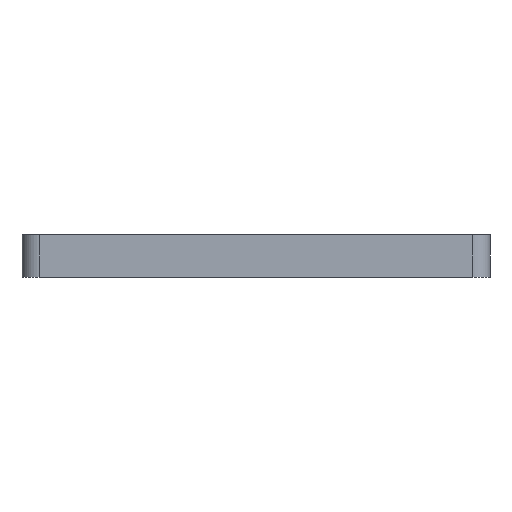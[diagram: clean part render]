
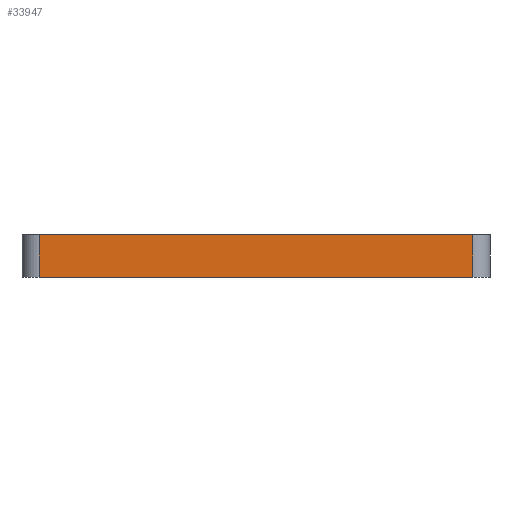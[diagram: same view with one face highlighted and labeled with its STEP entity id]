
A CAD part, left-side view. The second image highlights one B-rep face of the part: STEP entity #33947.
In plain terms, the highlighted free-form (B-spline) face has degree [1, 1] with [2, 2] control points.
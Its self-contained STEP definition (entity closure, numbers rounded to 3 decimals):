
#4346 = B_SPLINE_SURFACE_WITH_KNOTS('',1,1,(
    (#4347,#4348)
    ,(#4349,#4350
    )),.UNSPECIFIED.,.F.,.F.,.F.,(2,2),(2,2),(0.,108.),(0.,108.),
  .PIECEWISE_BEZIER_KNOTS.);
#4347 = CARTESIAN_POINT('',(-54.,54.,9.8));
#4348 = CARTESIAN_POINT('',(-54.,-54.,9.8));
#4349 = CARTESIAN_POINT('',(54.,54.,9.8));
#4350 = CARTESIAN_POINT('',(54.,-54.,9.8));
#24411 = B_SPLINE_SURFACE_WITH_KNOTS('',1,1,(
    (#24412,#24413)
    ,(#24414,#24415
    )),.UNSPECIFIED.,.F.,.F.,.F.,(2,2),(2,2),(0.,108.),(0.,108.),
  .PIECEWISE_BEZIER_KNOTS.);
#24412 = CARTESIAN_POINT('',(-54.,54.,0.));
#24413 = CARTESIAN_POINT('',(-54.,-54.,0.));
#24414 = CARTESIAN_POINT('',(54.,54.,0.));
#24415 = CARTESIAN_POINT('',(54.,-54.,0.));
#24535 = EDGE_CURVE('',#24536,#24538,#24540,.T.);
#24536 = VERTEX_POINT('',#24537);
#24537 = CARTESIAN_POINT('',(-54.,50.,9.8));
#24538 = VERTEX_POINT('',#24539);
#24539 = CARTESIAN_POINT('',(-54.,-50.,9.8));
#24540 = SURFACE_CURVE('',#24541,(#24544,#24550),.PCURVE_S1.);
#24541 = B_SPLINE_CURVE_WITH_KNOTS('',1,(#24542,#24543),.UNSPECIFIED.,
  .F.,.F.,(2,2),(4.,104.),.PIECEWISE_BEZIER_KNOTS.);
#24542 = CARTESIAN_POINT('',(-54.,50.,9.8));
#24543 = CARTESIAN_POINT('',(-54.,-50.,9.8));
#24544 = PCURVE('',#4346,#24545);
#24545 = DEFINITIONAL_REPRESENTATION('',(#24546),#24549);
#24546 = B_SPLINE_CURVE_WITH_KNOTS('',1,(#24547,#24548),.UNSPECIFIED.,
  .F.,.F.,(2,2),(4.,104.),.PIECEWISE_BEZIER_KNOTS.);
#24547 = CARTESIAN_POINT('',(0.,4.));
#24548 = CARTESIAN_POINT('',(0.,104.));
#24549 = ( GEOMETRIC_REPRESENTATION_CONTEXT(2) 
PARAMETRIC_REPRESENTATION_CONTEXT() REPRESENTATION_CONTEXT('2D SPACE',''
  ) );
#24550 = PCURVE('',#24551,#24556);
#24551 = B_SPLINE_SURFACE_WITH_KNOTS('',1,1,(
    (#24552,#24553)
    ,(#24554,#24555
    )),.UNSPECIFIED.,.F.,.F.,.F.,(2,2),(2,2),(0.,9.8),(-104.,-4.),
  .PIECEWISE_BEZIER_KNOTS.);
#24552 = CARTESIAN_POINT('',(-54.,-50.,9.8));
#24553 = CARTESIAN_POINT('',(-54.,50.,9.8));
#24554 = CARTESIAN_POINT('',(-54.,-50.,0.));
#24555 = CARTESIAN_POINT('',(-54.,50.,0.));
#24556 = DEFINITIONAL_REPRESENTATION('',(#24557),#24560);
#24557 = B_SPLINE_CURVE_WITH_KNOTS('',1,(#24558,#24559),.UNSPECIFIED.,
  .F.,.F.,(2,2),(4.,104.),.PIECEWISE_BEZIER_KNOTS.);
#24558 = CARTESIAN_POINT('',(0.,-4.));
#24559 = CARTESIAN_POINT('',(0.,-104.));
#24560 = ( GEOMETRIC_REPRESENTATION_CONTEXT(2) 
PARAMETRIC_REPRESENTATION_CONTEXT() REPRESENTATION_CONTEXT('2D SPACE',''
  ) );
#24578 = ( BOUNDED_SURFACE() B_SPLINE_SURFACE(2,1,(
    (#24579,#24580)
    ,(#24581,#24582)
    ,(#24583,#24584
)),.UNSPECIFIED.,.F.,.F.,.F.) B_SPLINE_SURFACE_WITH_KNOTS((3,3),(2,2),(
    0.,1.571),(0.,9.8),.PIECEWISE_BEZIER_KNOTS.) 
GEOMETRIC_REPRESENTATION_ITEM() RATIONAL_B_SPLINE_SURFACE((
    (1.,1.)
    ,(0.707,0.707)
,(1.,1.))) REPRESENTATION_ITEM('') SURFACE() );
#24579 = CARTESIAN_POINT('',(-54.,50.,9.8));
#24580 = CARTESIAN_POINT('',(-54.,50.,0.));
#24581 = CARTESIAN_POINT('',(-54.,54.,9.8));
#24582 = CARTESIAN_POINT('',(-54.,54.,0.));
#24583 = CARTESIAN_POINT('',(-50.,54.,9.8));
#24584 = CARTESIAN_POINT('',(-50.,54.,0.));
#24741 = ( BOUNDED_SURFACE() B_SPLINE_SURFACE(2,1,(
    (#24742,#24743)
    ,(#24744,#24745)
    ,(#24746,#24747
)),.UNSPECIFIED.,.F.,.F.,.F.) B_SPLINE_SURFACE_WITH_KNOTS((3,3),(2,2),(
    0.,1.571),(0.,9.8),.PIECEWISE_BEZIER_KNOTS.) 
GEOMETRIC_REPRESENTATION_ITEM() RATIONAL_B_SPLINE_SURFACE((
    (1.,1.)
    ,(0.707,0.707)
,(1.,1.))) REPRESENTATION_ITEM('') SURFACE() );
#24742 = CARTESIAN_POINT('',(-54.,-50.,9.8));
#24743 = CARTESIAN_POINT('',(-54.,-50.,0.));
#24744 = CARTESIAN_POINT('',(-54.,-54.,9.8));
#24745 = CARTESIAN_POINT('',(-54.,-54.,0.));
#24746 = CARTESIAN_POINT('',(-50.,-54.,9.8));
#24747 = CARTESIAN_POINT('',(-50.,-54.,0.));
#33770 = EDGE_CURVE('',#33771,#33773,#33775,.T.);
#33771 = VERTEX_POINT('',#33772);
#33772 = CARTESIAN_POINT('',(-54.,50.,0.));
#33773 = VERTEX_POINT('',#33774);
#33774 = CARTESIAN_POINT('',(-54.,-50.,0.));
#33775 = SURFACE_CURVE('',#33776,(#33779,#33785),.PCURVE_S1.);
#33776 = B_SPLINE_CURVE_WITH_KNOTS('',1,(#33777,#33778),.UNSPECIFIED.,
  .F.,.F.,(2,2),(4.,104.),.PIECEWISE_BEZIER_KNOTS.);
#33777 = CARTESIAN_POINT('',(-54.,50.,0.));
#33778 = CARTESIAN_POINT('',(-54.,-50.,0.));
#33779 = PCURVE('',#24411,#33780);
#33780 = DEFINITIONAL_REPRESENTATION('',(#33781),#33784);
#33781 = B_SPLINE_CURVE_WITH_KNOTS('',1,(#33782,#33783),.UNSPECIFIED.,
  .F.,.F.,(2,2),(4.,104.),.PIECEWISE_BEZIER_KNOTS.);
#33782 = CARTESIAN_POINT('',(0.,4.));
#33783 = CARTESIAN_POINT('',(0.,104.));
#33784 = ( GEOMETRIC_REPRESENTATION_CONTEXT(2) 
PARAMETRIC_REPRESENTATION_CONTEXT() REPRESENTATION_CONTEXT('2D SPACE',''
  ) );
#33785 = PCURVE('',#24551,#33786);
#33786 = DEFINITIONAL_REPRESENTATION('',(#33787),#33790);
#33787 = B_SPLINE_CURVE_WITH_KNOTS('',1,(#33788,#33789),.UNSPECIFIED.,
  .F.,.F.,(2,2),(4.,104.),.PIECEWISE_BEZIER_KNOTS.);
#33788 = CARTESIAN_POINT('',(9.8,-4.));
#33789 = CARTESIAN_POINT('',(9.8,-104.));
#33790 = ( GEOMETRIC_REPRESENTATION_CONTEXT(2) 
PARAMETRIC_REPRESENTATION_CONTEXT() REPRESENTATION_CONTEXT('2D SPACE',''
  ) );
#33947 = ADVANCED_FACE('',(#33948),#24551,.F.);
#33948 = FACE_BOUND('',#33949,.F.);
#33949 = EDGE_LOOP('',(#33950,#33951,#33970,#33971));
#33950 = ORIENTED_EDGE('',*,*,#33770,.F.);
#33951 = ORIENTED_EDGE('',*,*,#33952,.F.);
#33952 = EDGE_CURVE('',#24536,#33771,#33953,.T.);
#33953 = SURFACE_CURVE('',#33954,(#33957,#33963),.PCURVE_S1.);
#33954 = B_SPLINE_CURVE_WITH_KNOTS('',1,(#33955,#33956),.UNSPECIFIED.,
  .F.,.F.,(2,2),(0.,9.8),.PIECEWISE_BEZIER_KNOTS.);
#33955 = CARTESIAN_POINT('',(-54.,50.,9.8));
#33956 = CARTESIAN_POINT('',(-54.,50.,0.));
#33957 = PCURVE('',#24551,#33958);
#33958 = DEFINITIONAL_REPRESENTATION('',(#33959),#33962);
#33959 = B_SPLINE_CURVE_WITH_KNOTS('',1,(#33960,#33961),.UNSPECIFIED.,
  .F.,.F.,(2,2),(0.,9.8),.PIECEWISE_BEZIER_KNOTS.);
#33960 = CARTESIAN_POINT('',(0.,-4.));
#33961 = CARTESIAN_POINT('',(9.8,-4.));
#33962 = ( GEOMETRIC_REPRESENTATION_CONTEXT(2) 
PARAMETRIC_REPRESENTATION_CONTEXT() REPRESENTATION_CONTEXT('2D SPACE',''
  ) );
#33963 = PCURVE('',#24578,#33964);
#33964 = DEFINITIONAL_REPRESENTATION('',(#33965),#33969);
#33965 = B_SPLINE_CURVE_WITH_KNOTS('',2,(#33966,#33967,#33968),
  .UNSPECIFIED.,.F.,.F.,(3,3),(0.,9.8),.PIECEWISE_BEZIER_KNOTS.);
#33966 = CARTESIAN_POINT('',(0.,0.));
#33967 = CARTESIAN_POINT('',(0.,4.9));
#33968 = CARTESIAN_POINT('',(0.,9.8));
#33969 = ( GEOMETRIC_REPRESENTATION_CONTEXT(2) 
PARAMETRIC_REPRESENTATION_CONTEXT() REPRESENTATION_CONTEXT('2D SPACE',''
  ) );
#33970 = ORIENTED_EDGE('',*,*,#24535,.T.);
#33971 = ORIENTED_EDGE('',*,*,#33972,.T.);
#33972 = EDGE_CURVE('',#24538,#33773,#33973,.T.);
#33973 = SURFACE_CURVE('',#33974,(#33977,#33983),.PCURVE_S1.);
#33974 = B_SPLINE_CURVE_WITH_KNOTS('',1,(#33975,#33976),.UNSPECIFIED.,
  .F.,.F.,(2,2),(0.,9.8),.PIECEWISE_BEZIER_KNOTS.);
#33975 = CARTESIAN_POINT('',(-54.,-50.,9.8));
#33976 = CARTESIAN_POINT('',(-54.,-50.,0.));
#33977 = PCURVE('',#24551,#33978);
#33978 = DEFINITIONAL_REPRESENTATION('',(#33979),#33982);
#33979 = B_SPLINE_CURVE_WITH_KNOTS('',1,(#33980,#33981),.UNSPECIFIED.,
  .F.,.F.,(2,2),(0.,9.8),.PIECEWISE_BEZIER_KNOTS.);
#33980 = CARTESIAN_POINT('',(0.,-104.));
#33981 = CARTESIAN_POINT('',(9.8,-104.));
#33982 = ( GEOMETRIC_REPRESENTATION_CONTEXT(2) 
PARAMETRIC_REPRESENTATION_CONTEXT() REPRESENTATION_CONTEXT('2D SPACE',''
  ) );
#33983 = PCURVE('',#24741,#33984);
#33984 = DEFINITIONAL_REPRESENTATION('',(#33985),#33989);
#33985 = B_SPLINE_CURVE_WITH_KNOTS('',2,(#33986,#33987,#33988),
  .UNSPECIFIED.,.F.,.F.,(3,3),(0.,9.8),.PIECEWISE_BEZIER_KNOTS.);
#33986 = CARTESIAN_POINT('',(0.,0.));
#33987 = CARTESIAN_POINT('',(0.,4.9));
#33988 = CARTESIAN_POINT('',(0.,9.8));
#33989 = ( GEOMETRIC_REPRESENTATION_CONTEXT(2) 
PARAMETRIC_REPRESENTATION_CONTEXT() REPRESENTATION_CONTEXT('2D SPACE',''
  ) );
